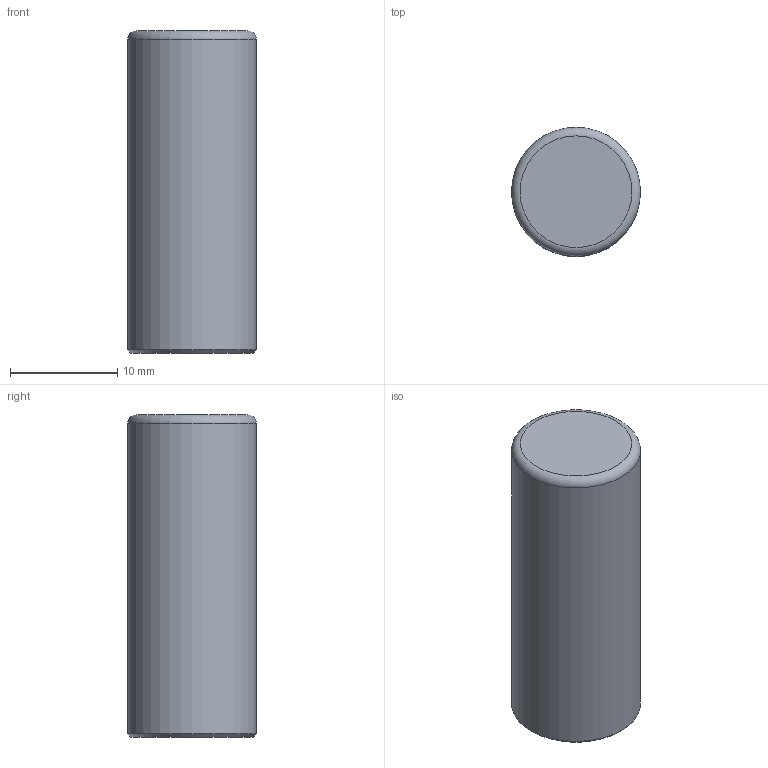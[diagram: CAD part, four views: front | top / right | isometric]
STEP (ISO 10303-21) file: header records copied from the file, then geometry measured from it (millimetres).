
FILE_DESCRIPTION(('Open CASCADE Model'),'2;1');
FILE_NAME('FL-PIN-S-knob-12','2026-10-19T21:24:09',('Author'),( 'Open CASCADE'),'Open CASCADE STEP processor 8.0','build123d', 'Unknown');
FILE_SCHEMA(('AUTOMOTIVE_DESIGN { 1 0 10303 214 1 1 1 1 }'));
Length unit declared in the file: millimetre
Products named in the file (2): FL-PIN-S-knob-12; brass_FL-PINS12__k
Assembly tree (1 placements, depth 2):
  FL-PIN-S-knob-12
    brass_FL-PINS12__k
Bounding box: 12 x 12 x 30 mm (x, y, z)
Volume: 3276.3 mm3; surface area: 1460 mm2
Topology: 1 solids, 1 shells, 9 faces, 13 edges, 8 vertices
Faces by surface type: plane 4, cylinder 3, cone 1, torus 1
Full cylindrical faces by diameter (mm): 3.3 x1, 5.1 x1, 12 x1
Entity records: 393 total; most frequent: DIRECTION 66, CARTESIAN_POINT 62, ORIENTED_EDGE 26, PCURVE 26, DEFINITIONAL_REPRESENTATION 26, AXIS2_PLACEMENT_3D 20, LINE 20, VECTOR 20
